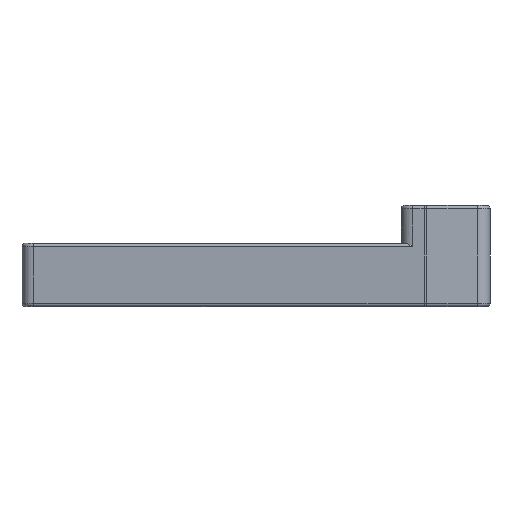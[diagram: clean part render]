
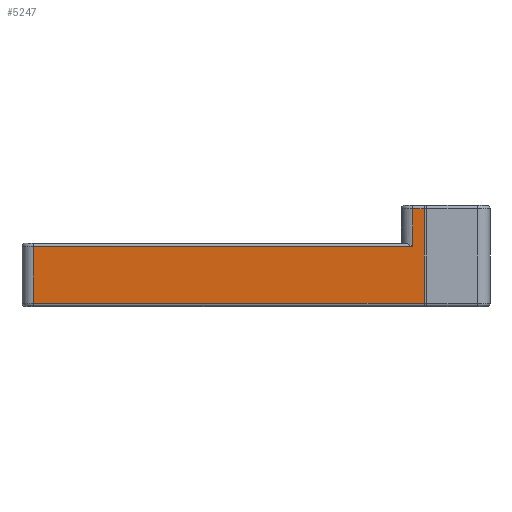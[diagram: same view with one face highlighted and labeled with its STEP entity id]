
A CAD part, front view. The second image highlights one B-rep face of the part: STEP entity #5247.
In plain terms, the highlighted planar face has unit normal (-0.104, -0.995, 0).
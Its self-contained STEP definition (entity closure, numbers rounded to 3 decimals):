
#783=FACE_OUTER_BOUND('',#1100,.T.);
#1100=EDGE_LOOP('',(#4559,#4560,#4561,#4562,#4563,#4564));
#1545=LINE('',#9655,#1991);
#1560=LINE('',#9718,#2006);
#1561=LINE('',#9722,#2007);
#1562=LINE('',#9724,#2008);
#1563=LINE('',#9726,#2009);
#1564=LINE('',#9727,#2010);
#1991=VECTOR('',#6533,10.);
#2006=VECTOR('',#6594,10.);
#2007=VECTOR('',#6599,10.);
#2008=VECTOR('',#6600,10.);
#2009=VECTOR('',#6601,10.);
#2010=VECTOR('',#6602,10.);
#2477=VERTEX_POINT('',#9647);
#2479=VERTEX_POINT('',#9653);
#2495=VERTEX_POINT('',#9717);
#2496=VERTEX_POINT('',#9721);
#2497=VERTEX_POINT('',#9723);
#2498=VERTEX_POINT('',#9725);
#3176=EDGE_CURVE('',#2479,#2477,#1545,.T.);
#3204=EDGE_CURVE('',#2495,#2477,#1560,.T.);
#3206=EDGE_CURVE('',#2496,#2479,#1561,.T.);
#3207=EDGE_CURVE('',#2497,#2496,#1562,.T.);
#3208=EDGE_CURVE('',#2498,#2497,#1563,.T.);
#3209=EDGE_CURVE('',#2495,#2498,#1564,.T.);
#4559=ORIENTED_EDGE('',*,*,#3176,.F.);
#4560=ORIENTED_EDGE('',*,*,#3206,.F.);
#4561=ORIENTED_EDGE('',*,*,#3207,.F.);
#4562=ORIENTED_EDGE('',*,*,#3208,.F.);
#4563=ORIENTED_EDGE('',*,*,#3209,.F.);
#4564=ORIENTED_EDGE('',*,*,#3204,.T.);
#4998=PLANE('',#5578);
#5247=ADVANCED_FACE('',(#783),#4998,.T.);
#5578=AXIS2_PLACEMENT_3D('',#9720,#6597,#6598);
#6533=DIRECTION('',(-0.995,0.104,0.));
#6594=DIRECTION('',(0.,0.,-1.));
#6597=DIRECTION('center_axis',(-0.104,-0.995,0.));
#6598=DIRECTION('ref_axis',(-0.995,0.104,0.));
#6599=DIRECTION('',(0.,0.,-1.));
#6600=DIRECTION('',(0.995,-0.104,0.));
#6601=DIRECTION('',(0.,0.,1.));
#6602=DIRECTION('',(0.995,-0.104,0.));
#9647=CARTESIAN_POINT('',(45.365,-23.489,125.509));
#9653=CARTESIAN_POINT('',(107.156,-29.98,125.509));
#9655=CARTESIAN_POINT('',(92.453,-28.436,125.509));
#9717=CARTESIAN_POINT('',(45.365,-23.489,134.509));
#9718=CARTESIAN_POINT('',(45.365,-23.489,135.009));
#9720=CARTESIAN_POINT('Origin',(107.156,-29.98,135.009));
#9721=CARTESIAN_POINT('',(107.156,-29.98,140.509));
#9722=CARTESIAN_POINT('',(107.156,-29.98,135.009));
#9723=CARTESIAN_POINT('',(105.365,-29.792,140.509));
#9724=CARTESIAN_POINT('',(107.289,-29.994,140.509));
#9725=CARTESIAN_POINT('',(105.365,-29.792,134.509));
#9726=CARTESIAN_POINT('',(105.365,-29.792,135.009));
#9727=CARTESIAN_POINT('',(92.453,-28.436,134.509));
